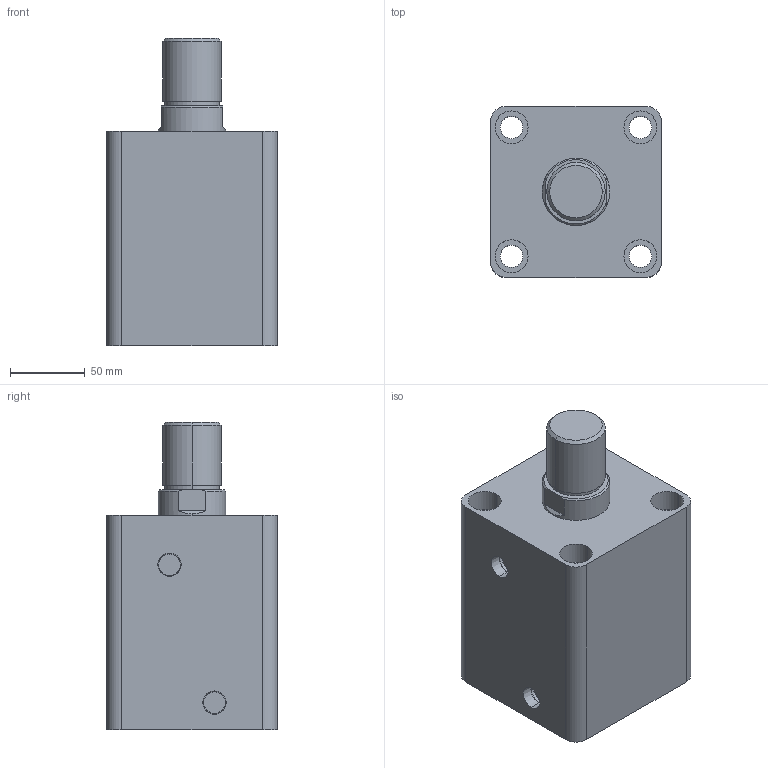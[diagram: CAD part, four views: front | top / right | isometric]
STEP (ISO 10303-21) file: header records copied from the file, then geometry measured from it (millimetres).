
FILE_DESCRIPTION (( 'STEP AP203' ), '1' );
FILE_NAME ('HTB-SD80-65W.STEP', '2019-10-07T08:32:40', ( '微软用户' ), ( '微软中国' ), 'SwSTEP 2.0', 'SolidWorks 2012', '' );
FILE_SCHEMA (( 'CONFIG_CONTROL_DESIGN' ));
Length unit declared in the file: millimetre
Products named in the file (3): HTB-SD80-65掛极; HTB-SD80-65W; HTB-SD80-65W活塞杆
Assembly tree (2 placements, depth 2):
  HTB-SD80-65W
    HTB-SD80-65掛极
    HTB-SD80-65W活塞杆
Bounding box: 114 x 114 x 205 mm (x, y, z)
Volume: 1572864.2 mm3; surface area: 192482.1 mm2
Topology: 2 solids, 2 shells, 87 faces, 190 edges, 124 vertices
Faces by surface type: cylinder 44, plane 29, cone 8, torus 6
Entity records: 2761 total; most frequent: DIRECTION 478, CARTESIAN_POINT 434, ORIENTED_EDGE 380, AXIS2_PLACEMENT_3D 204, EDGE_CURVE 190, VERTEX_POINT 124, EDGE_LOOP 112, CIRCLE 112
